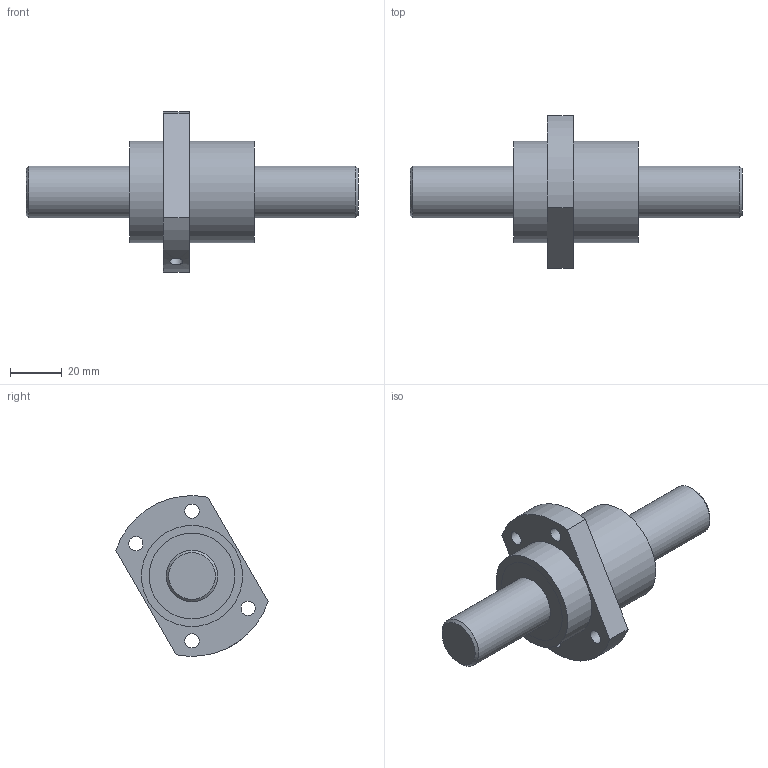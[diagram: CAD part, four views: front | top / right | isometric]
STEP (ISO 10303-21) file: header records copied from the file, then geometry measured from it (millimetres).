
FILE_DESCRIPTION (( 'STEP AP203' ), '1' );
FILE_NAME ('SFYA2040-1.6.STEP', '2023-08-17T00:51:08', ( '' ), ( '' ), 'SwSTEP 2.0', 'SolidWorks 2022', '' );
FILE_SCHEMA (( 'CONFIG_CONTROL_DESIGN' ));
Length unit declared in the file: millimetre
Products named in the file (1): SFYA2040-1.6
Bounding box: 128 x 58.76 x 61.95 mm (x, y, z)
Volume: 92725 mm3; surface area: 28072.6 mm2
Topology: 4 solids, 4 shells, 52 faces, 95 edges, 65 vertices
Faces by surface type: cylinder 27, plane 23, cone 2
Full cylindrical faces by diameter (mm): 3 x1, 5 x1, 5.5 x4, 20 x4, 30 x4, 33 x4, 34.5 x4, 39 x2
Entity records: 1357 total; most frequent: CARTESIAN_POINT 317, DIRECTION 218, ORIENTED_EDGE 124, EDGE_LOOP 106, AXIS2_PLACEMENT_3D 105, FACE_OUTER_BOUND 76, EDGE_CURVE 62, VERTEX_POINT 58
